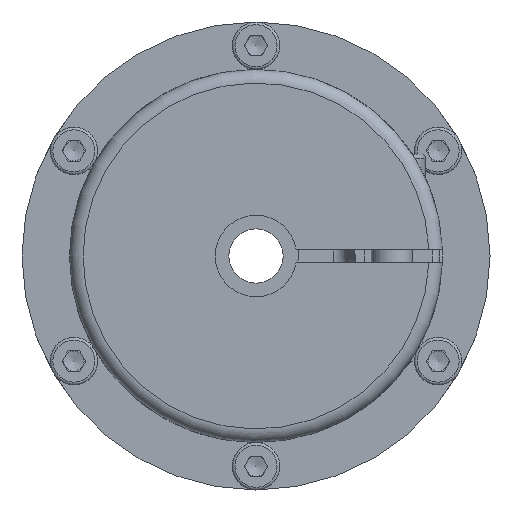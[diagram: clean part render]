
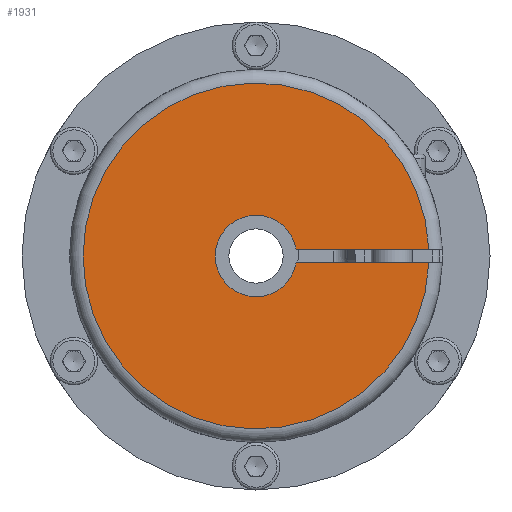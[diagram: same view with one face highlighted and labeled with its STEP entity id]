
A CAD part, left-side view. The second image highlights one B-rep face of the part: STEP entity #1931.
In plain terms, the highlighted planar face has unit normal (-1, 0, 0).
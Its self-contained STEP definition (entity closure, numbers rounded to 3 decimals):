
#1931 = ADVANCED_FACE( '', ( #4113 ), #4114, .T. );
#4113 = FACE_OUTER_BOUND( '', #6434, .T. );
#4114 = PLANE( '', #6435 );
#6434 = EDGE_LOOP( '', ( #12347, #12348, #12349, #12350 ) );
#6435 = AXIS2_PLACEMENT_3D( '', #12351, #12352, #12353 );
#12347 = ORIENTED_EDGE( '', *, *, #14410, .F. );
#12348 = ORIENTED_EDGE( '', *, *, #14859, .T. );
#12349 = ORIENTED_EDGE( '', *, *, #14323, .F. );
#12350 = ORIENTED_EDGE( '', *, *, #14934, .T. );
#12351 = CARTESIAN_POINT( '', ( -50.5, 0., 6. ) );
#12352 = DIRECTION( '', ( -1., 0., 0. ) );
#12353 = DIRECTION( '', ( 0., 0., 1. ) );
#14323 = EDGE_CURVE( '', #17551, #17548, #17553, .T. );
#14410 = EDGE_CURVE( '', #17675, #17677, #17678, .T. );
#14859 = EDGE_CURVE( '', #17675, #17548, #18251, .T. );
#14934 = EDGE_CURVE( '', #17551, #17677, #18336, .T. );
#17548 = VERTEX_POINT( '', #23430 );
#17551 = VERTEX_POINT( '', #23435 );
#17553 = LINE( '', #23450, #23451 );
#17675 = VERTEX_POINT( '', #23647 );
#17677 = VERTEX_POINT( '', #23650 );
#17678 = LINE( '', #23651, #23652 );
#18251 = CIRCLE( '', #24926, 6. );
#18336 = CIRCLE( '', #25148, 25.5 );
#23430 = CARTESIAN_POINT( '', ( -50.5, -5.916, 1. ) );
#23435 = CARTESIAN_POINT( '', ( -50.5, -25.48, 1. ) );
#23450 = CARTESIAN_POINT( '', ( -50.5, -29., 1. ) );
#23451 = VECTOR( '', #27418, 1000. );
#23647 = CARTESIAN_POINT( '', ( -50.5, -5.916, -1. ) );
#23650 = CARTESIAN_POINT( '', ( -50.5, -25.48, -1. ) );
#23651 = CARTESIAN_POINT( '', ( -50.5, 11., -1. ) );
#23652 = VECTOR( '', #27506, 1000. );
#24926 = AXIS2_PLACEMENT_3D( '', #27929, #27930, #27931 );
#25148 = AXIS2_PLACEMENT_3D( '', #27982, #27983, #27984 );
#27418 = DIRECTION( '', ( 0., 1., 0. ) );
#27506 = DIRECTION( '', ( 0., -1., 0. ) );
#27929 = CARTESIAN_POINT( '', ( -50.5, 0., 0. ) );
#27930 = DIRECTION( '', ( 1., 0., 0. ) );
#27931 = DIRECTION( '', ( 0., -1., 0. ) );
#27982 = CARTESIAN_POINT( '', ( -50.5, 0., 0. ) );
#27983 = DIRECTION( '', ( -1., 0., 0. ) );
#27984 = DIRECTION( '', ( 0., 0., 1. ) );
